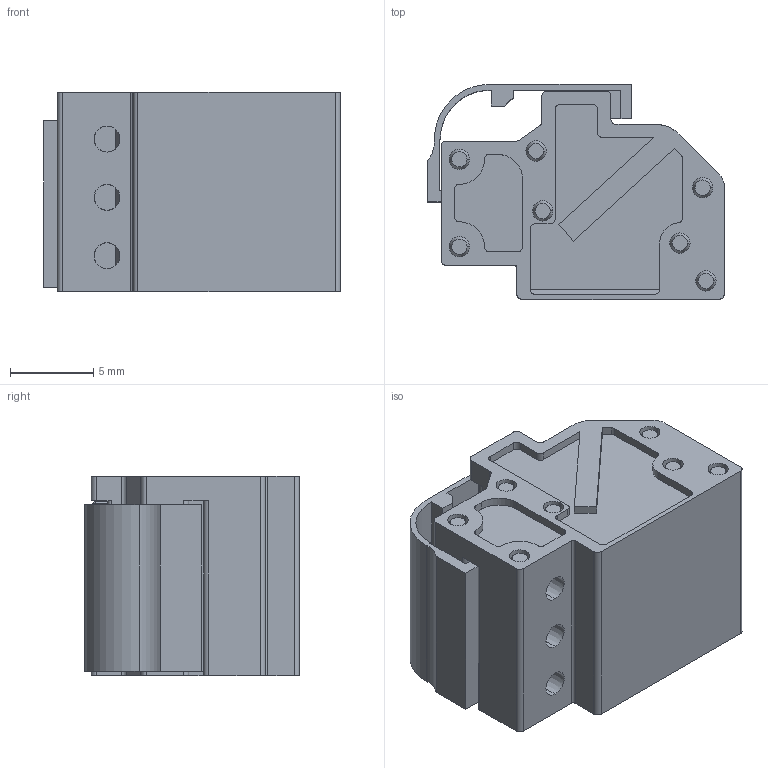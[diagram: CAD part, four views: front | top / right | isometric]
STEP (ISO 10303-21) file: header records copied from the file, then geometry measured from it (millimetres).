
FILE_DESCRIPTION((''),'2;1');
FILE_NAME('33','2019-05-05T',('zhenbing.lai'),(''),'CREO PARAMETRIC BY PTC INC, 2016260','CREO PARAMETRIC BY PTC INC, 2016260','');
FILE_SCHEMA(('CONFIG_CONTROL_DESIGN'));
Length unit declared in the file: millimetre
Products named in the file (1): 33
Bounding box: 17.8 x 12.9 x 11.95 mm (x, y, z)
Volume: 1898.1 mm3; surface area: 1765 mm2
Topology: 1 solids, 1 shells, 423 faces, 1185 edges, 757 vertices
Faces by surface type: plane 224, cylinder 120, cone 34, bspline 18, torus 12, sphere 12, extrusion 3
Entity records: 14794 total; most frequent: CARTESIAN_POINT 3932, ORIENTED_EDGE 2346, DIRECTION 2163, EDGE_CURVE 1173, VECTOR 759, VERTEX_POINT 757, LINE 756, AXIS2_PLACEMENT_3D 702
